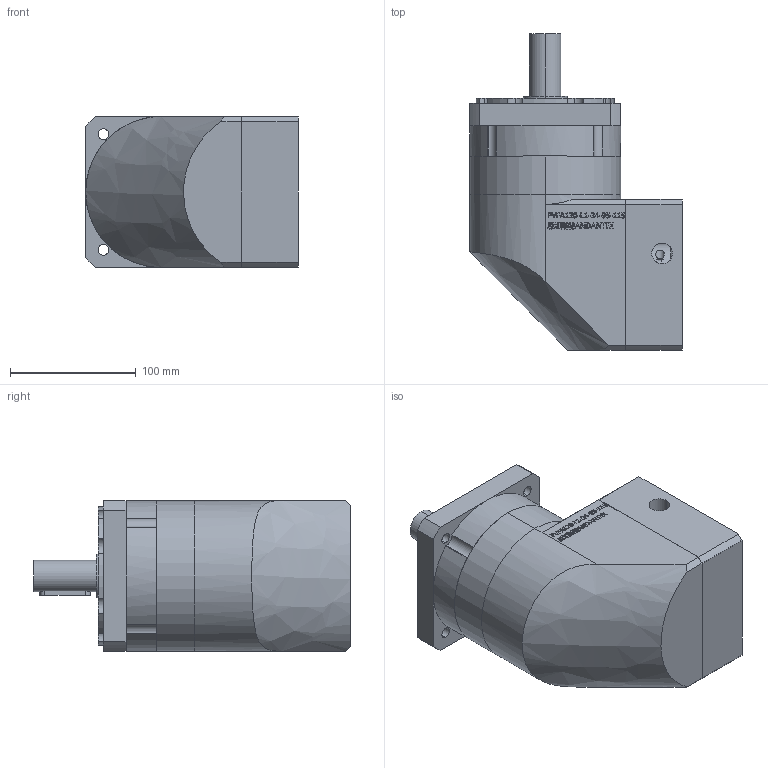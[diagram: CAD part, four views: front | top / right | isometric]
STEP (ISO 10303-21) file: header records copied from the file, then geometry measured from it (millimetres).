
FILE_DESCRIPTION (( 'STEP AP203' ), '1' );
FILE_NAME ('PVFA-L1-24-95-115.STEP', '2023-12-28T02:53:44', ( 'Windows User' ), ( 'P R C' ), 'SwSTEP 2.0', 'SolidWorks 2016', '' );
FILE_SCHEMA (( 'CONFIG_CONTROL_DESIGN' ));
Length unit declared in the file: millimetre
Products named in the file (9): 邧埴瑩 8x7x40; 粣創-3207A 35x72x27_2; PVFA-L1-24-95-115; B-PVFA120-眊极; PVFA120 κｳﾝﾈｦ-ﾓﾅｻｯ_ﾒｻｼｶﾄﾚｳﾝﾈｦ; PVFA120 奻屳唳; PVFA120-蟀諉啣-95-M6-115; PVFA120-薊粣ん-24; 螺釘範本 M8x20
Assembly tree (8 placements, depth 2):
  PVFA-L1-24-95-115
    B-PVFA120-眊极
    PVFA120 κｳﾝﾈｦ-ﾓﾅｻｯ_ﾒｻｼｶﾄﾚｳﾝﾈｦ
    PVFA120 奻屳唳
    PVFA120-蟀諉啣-95-M6-115
    PVFA120-薊粣ん-24
    螺釘範本 M8x20
    邧埴瑩 8x7x40
    粣創-3207A 35x72x27_2
Bounding box: 169 x 252 x 120 mm (x, y, z)
Volume: 2634806.1 mm3; surface area: 311043.7 mm2
Topology: 8 solids, 16 shells, 1143 faces, 3103 edges, 2042 vertices
Faces by surface type: plane 632, bspline 270, cylinder 213, cone 28
Entity records: 45663 total; most frequent: CARTESIAN_POINT 17388, ORIENTED_EDGE 6170, DIRECTION 4876, EDGE_CURVE 3085, VERTEX_POINT 2042, VECTOR 1804, LINE 1804, AXIS2_PLACEMENT_3D 1536
